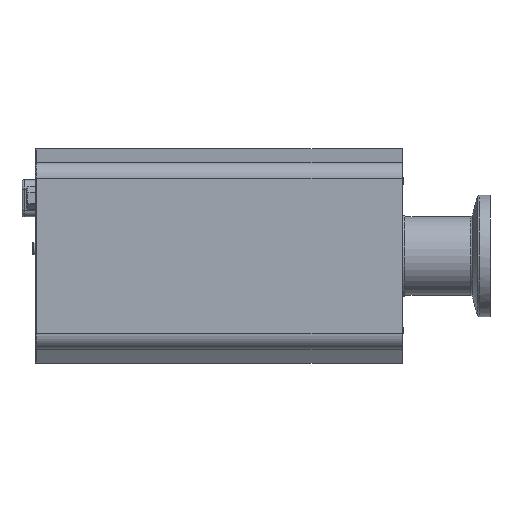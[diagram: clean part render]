
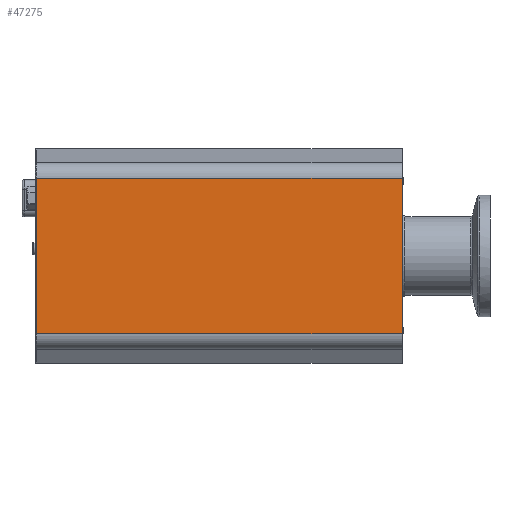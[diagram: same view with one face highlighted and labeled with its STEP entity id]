
A CAD part, left-side view. The second image highlights one B-rep face of the part: STEP entity #47275.
In plain terms, the highlighted planar face has unit normal (1, 0, 0).
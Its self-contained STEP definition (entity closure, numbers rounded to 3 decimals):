
#1150 = ORIENTED_EDGE ( 'NONE', *, *, #9365, .F. ) ;
#2615 = DIRECTION ( 'NONE',  ( 0., 0., -1. ) ) ;
#3277 = CARTESIAN_POINT ( 'NONE',  ( -17.518, 42.652, 107.144 ) ) ;
#5626 = VECTOR ( 'NONE', #38705, 1000. ) ;
#6179 = CARTESIAN_POINT ( 'NONE',  ( -17.518, -45.348, 107.144 ) ) ;
#6900 = VECTOR ( 'NONE', #21094, 1000. ) ;
#7407 = FACE_OUTER_BOUND ( 'NONE', #44884, .T. ) ;
#9365 = EDGE_CURVE ( 'NONE', #48708, #26723, #26685, .T. ) ;
#9803 = LINE ( 'NONE', #21850, #6900 ) ;
#10093 = VECTOR ( 'NONE', #2615, 1000. ) ;
#10638 = ORIENTED_EDGE ( 'NONE', *, *, #26490, .T. ) ;
#11154 = DIRECTION ( 'NONE',  ( -1., 0., 0. ) ) ;
#11405 = CARTESIAN_POINT ( 'NONE',  ( -17.518, 42.652, 110.213 ) ) ;
#11495 = AXIS2_PLACEMENT_3D ( 'NONE', #11405, #11154, #22702 ) ;
#11914 = ORIENTED_EDGE ( 'NONE', *, *, #33306, .F. ) ;
#21094 = DIRECTION ( 'NONE',  ( 0., 1., 0. ) ) ;
#21374 = EDGE_CURVE ( 'NONE', #33956, #35556, #44740, .T. ) ;
#21850 = CARTESIAN_POINT ( 'NONE',  ( -17.518, 42.652, 68.856 ) ) ;
#22702 = DIRECTION ( 'NONE',  ( 0., 0., 1. ) ) ;
#24792 = CARTESIAN_POINT ( 'NONE',  ( -17.518, 44.852, 68.856 ) ) ;
#26490 = EDGE_CURVE ( 'NONE', #35556, #26723, #9803, .T. ) ;
#26685 = LINE ( 'NONE', #30942, #5626 ) ;
#26723 = VERTEX_POINT ( 'NONE', #24792 ) ;
#29105 = LINE ( 'NONE', #3277, #37447 ) ;
#30219 = PLANE ( 'NONE',  #11495 ) ;
#30942 = CARTESIAN_POINT ( 'NONE',  ( -17.518, 44.852, 110.213 ) ) ;
#31780 = CARTESIAN_POINT ( 'NONE',  ( -17.518, -45.348, 68.856 ) ) ;
#33306 = EDGE_CURVE ( 'NONE', #33956, #48708, #29105, .T. ) ;
#33956 = VERTEX_POINT ( 'NONE', #6179 ) ;
#35556 = VERTEX_POINT ( 'NONE', #31780 ) ;
#37447 = VECTOR ( 'NONE', #44158, 1000. ) ;
#38705 = DIRECTION ( 'NONE',  ( 0., 0., -1. ) ) ;
#40361 = ORIENTED_EDGE ( 'NONE', *, *, #21374, .T. ) ;
#40950 = CARTESIAN_POINT ( 'NONE',  ( -17.518, -45.348, 110.5 ) ) ;
#44158 = DIRECTION ( 'NONE',  ( 0., 1., 0. ) ) ;
#44740 = LINE ( 'NONE', #40950, #10093 ) ;
#44884 = EDGE_LOOP ( 'NONE', ( #40361, #10638, #1150, #11914 ) ) ;
#47057 = CARTESIAN_POINT ( 'NONE',  ( -17.518, 44.852, 107.144 ) ) ;
#47275 = ADVANCED_FACE ( 'NONE', ( #7407 ), #30219, .F. ) ;
#48708 = VERTEX_POINT ( 'NONE', #47057 ) ;
